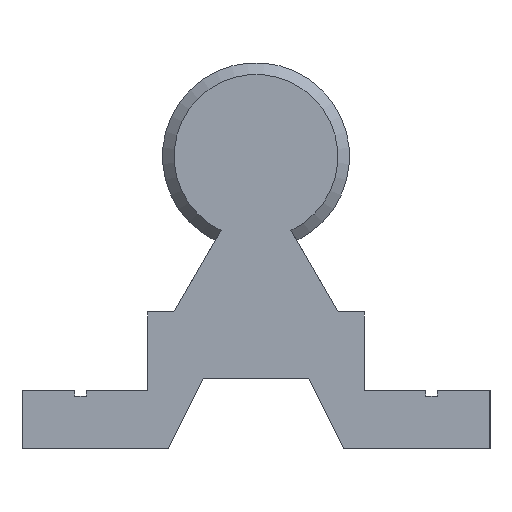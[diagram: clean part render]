
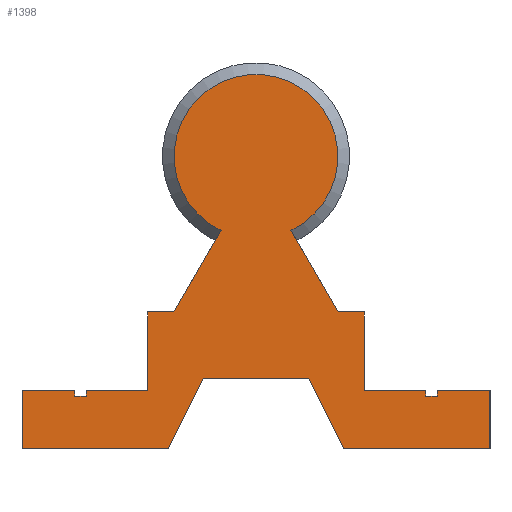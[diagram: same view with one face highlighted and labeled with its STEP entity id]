
A CAD part, left-side view. The second image highlights one B-rep face of the part: STEP entity #1398.
In plain terms, the highlighted planar face has unit normal (-1, 0, 0).
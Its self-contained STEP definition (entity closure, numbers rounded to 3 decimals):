
#32=LINE('',#2077,#142);
#33=LINE('',#2079,#143);
#34=LINE('',#2081,#144);
#35=LINE('',#2083,#145);
#36=LINE('',#2085,#146);
#37=LINE('',#2087,#147);
#38=LINE('',#2089,#148);
#39=LINE('',#2091,#149);
#40=LINE('',#2093,#150);
#41=LINE('',#2095,#151);
#42=LINE('',#2097,#152);
#43=LINE('',#2099,#153);
#44=LINE('',#2101,#154);
#45=LINE('',#2103,#155);
#46=LINE('',#2105,#156);
#47=LINE('',#2107,#157);
#48=LINE('',#2109,#158);
#49=LINE('',#2111,#159);
#50=LINE('',#2113,#160);
#51=LINE('',#2115,#161);
#52=LINE('',#2117,#162);
#53=LINE('',#2119,#163);
#54=LINE('',#2120,#164);
#142=VECTOR('',#1655,10.);
#143=VECTOR('',#1656,10.);
#144=VECTOR('',#1657,10.);
#145=VECTOR('',#1658,10.);
#146=VECTOR('',#1659,10.);
#147=VECTOR('',#1660,10.);
#148=VECTOR('',#1661,10.);
#149=VECTOR('',#1662,10.);
#150=VECTOR('',#1663,10.);
#151=VECTOR('',#1664,10.);
#152=VECTOR('',#1665,10.);
#153=VECTOR('',#1666,10.);
#154=VECTOR('',#1667,10.);
#155=VECTOR('',#1668,10.);
#156=VECTOR('',#1669,10.);
#157=VECTOR('',#1670,10.);
#158=VECTOR('',#1671,10.);
#159=VECTOR('',#1672,10.);
#160=VECTOR('',#1673,10.);
#161=VECTOR('',#1674,10.);
#162=VECTOR('',#1675,10.);
#163=VECTOR('',#1676,10.);
#164=VECTOR('',#1677,10.);
#252=PLANE('',#1496);
#302=FACE_OUTER_BOUND('',#378,.T.);
#378=EDGE_LOOP('',(#939,#940,#941,#942,#943,#944,#945,#946,#947,#948,#949,
#950,#951,#952,#953,#954,#955,#956,#957,#958,#959,#960,#961,#962));
#461=CIRCLE('',#1494,7.);
#574=VERTEX_POINT('',#2064);
#575=VERTEX_POINT('',#2068);
#577=VERTEX_POINT('',#2076);
#578=VERTEX_POINT('',#2078);
#579=VERTEX_POINT('',#2080);
#580=VERTEX_POINT('',#2082);
#581=VERTEX_POINT('',#2084);
#582=VERTEX_POINT('',#2086);
#583=VERTEX_POINT('',#2088);
#584=VERTEX_POINT('',#2090);
#585=VERTEX_POINT('',#2092);
#586=VERTEX_POINT('',#2094);
#587=VERTEX_POINT('',#2096);
#588=VERTEX_POINT('',#2098);
#589=VERTEX_POINT('',#2100);
#590=VERTEX_POINT('',#2102);
#591=VERTEX_POINT('',#2104);
#592=VERTEX_POINT('',#2106);
#593=VERTEX_POINT('',#2108);
#594=VERTEX_POINT('',#2110);
#595=VERTEX_POINT('',#2112);
#596=VERTEX_POINT('',#2114);
#597=VERTEX_POINT('',#2116);
#598=VERTEX_POINT('',#2118);
#714=EDGE_CURVE('',#574,#575,#461,.T.);
#717=EDGE_CURVE('',#575,#577,#32,.T.);
#718=EDGE_CURVE('',#578,#574,#33,.T.);
#719=EDGE_CURVE('',#579,#578,#34,.T.);
#720=EDGE_CURVE('',#580,#579,#35,.T.);
#721=EDGE_CURVE('',#581,#580,#36,.T.);
#722=EDGE_CURVE('',#582,#581,#37,.T.);
#723=EDGE_CURVE('',#583,#582,#38,.T.);
#724=EDGE_CURVE('',#584,#583,#39,.T.);
#725=EDGE_CURVE('',#585,#584,#40,.T.);
#726=EDGE_CURVE('',#586,#585,#41,.T.);
#727=EDGE_CURVE('',#587,#586,#42,.T.);
#728=EDGE_CURVE('',#588,#587,#43,.T.);
#729=EDGE_CURVE('',#589,#588,#44,.T.);
#730=EDGE_CURVE('',#590,#589,#45,.T.);
#731=EDGE_CURVE('',#591,#590,#46,.T.);
#732=EDGE_CURVE('',#592,#591,#47,.T.);
#733=EDGE_CURVE('',#593,#592,#48,.T.);
#734=EDGE_CURVE('',#594,#593,#49,.T.);
#735=EDGE_CURVE('',#595,#594,#50,.T.);
#736=EDGE_CURVE('',#596,#595,#51,.T.);
#737=EDGE_CURVE('',#597,#596,#52,.T.);
#738=EDGE_CURVE('',#598,#597,#53,.T.);
#739=EDGE_CURVE('',#577,#598,#54,.T.);
#939=ORIENTED_EDGE('',*,*,#717,.F.);
#940=ORIENTED_EDGE('',*,*,#714,.F.);
#941=ORIENTED_EDGE('',*,*,#718,.F.);
#942=ORIENTED_EDGE('',*,*,#719,.F.);
#943=ORIENTED_EDGE('',*,*,#720,.F.);
#944=ORIENTED_EDGE('',*,*,#721,.F.);
#945=ORIENTED_EDGE('',*,*,#722,.F.);
#946=ORIENTED_EDGE('',*,*,#723,.F.);
#947=ORIENTED_EDGE('',*,*,#724,.F.);
#948=ORIENTED_EDGE('',*,*,#725,.F.);
#949=ORIENTED_EDGE('',*,*,#726,.F.);
#950=ORIENTED_EDGE('',*,*,#727,.F.);
#951=ORIENTED_EDGE('',*,*,#728,.F.);
#952=ORIENTED_EDGE('',*,*,#729,.F.);
#953=ORIENTED_EDGE('',*,*,#730,.F.);
#954=ORIENTED_EDGE('',*,*,#731,.F.);
#955=ORIENTED_EDGE('',*,*,#732,.F.);
#956=ORIENTED_EDGE('',*,*,#733,.F.);
#957=ORIENTED_EDGE('',*,*,#734,.F.);
#958=ORIENTED_EDGE('',*,*,#735,.F.);
#959=ORIENTED_EDGE('',*,*,#736,.F.);
#960=ORIENTED_EDGE('',*,*,#737,.F.);
#961=ORIENTED_EDGE('',*,*,#738,.F.);
#962=ORIENTED_EDGE('',*,*,#739,.F.);
#1398=ADVANCED_FACE('',(#302),#252,.F.);
#1494=AXIS2_PLACEMENT_3D('',#2069,#1649,#1650);
#1496=AXIS2_PLACEMENT_3D('',#2075,#1653,#1654);
#1649=DIRECTION('center_axis',(1.,0.,0.));
#1650=DIRECTION('ref_axis',(0.,1.,0.));
#1653=DIRECTION('center_axis',(1.,0.,0.));
#1654=DIRECTION('ref_axis',(0.,0.,-1.));
#1655=DIRECTION('',(0.,-0.5,-0.866));
#1656=DIRECTION('',(0.,-0.5,0.866));
#1657=DIRECTION('',(0.,-1.,0.));
#1658=DIRECTION('',(0.,0.,1.));
#1659=DIRECTION('',(0.,-1.,0.));
#1660=DIRECTION('',(0.,0.,1.));
#1661=DIRECTION('',(0.,-1.,0.));
#1662=DIRECTION('',(0.,0.,-1.));
#1663=DIRECTION('',(0.,-1.,0.));
#1664=DIRECTION('',(0.,0.,1.));
#1665=DIRECTION('',(0.,1.,0.));
#1666=DIRECTION('',(0.,0.447,-0.894));
#1667=DIRECTION('',(0.,1.,0.));
#1668=DIRECTION('',(0.,0.447,0.894));
#1669=DIRECTION('',(0.,1.,0.));
#1670=DIRECTION('',(0.,0.,-1.));
#1671=DIRECTION('',(0.,-1.,0.));
#1672=DIRECTION('',(0.,0.,1.));
#1673=DIRECTION('',(0.,-1.,0.));
#1674=DIRECTION('',(0.,0.,-1.));
#1675=DIRECTION('',(0.,-1.,0.));
#1676=DIRECTION('',(0.,0.,-1.));
#1677=DIRECTION('',(0.,-1.,0.));
#2064=CARTESIAN_POINT('',(0.,2.986,18.669));
#2068=CARTESIAN_POINT('',(0.,-2.986,18.669));
#2069=CARTESIAN_POINT('Origin',(0.,0.,25.));
#2075=CARTESIAN_POINT('Origin',(0.,0.,25.));
#2076=CARTESIAN_POINT('',(0.,-7.009,11.7));
#2077=CARTESIAN_POINT('',(0.,-1.492,21.255));
#2078=CARTESIAN_POINT('',(0.,7.009,11.7));
#2079=CARTESIAN_POINT('',(0.,3.253,18.205));
#2080=CARTESIAN_POINT('',(0.,9.25,11.7));
#2081=CARTESIAN_POINT('',(0.,9.25,11.7));
#2082=CARTESIAN_POINT('',(0.,9.25,5.));
#2083=CARTESIAN_POINT('',(0.,9.25,5.));
#2084=CARTESIAN_POINT('',(0.,14.5,5.));
#2085=CARTESIAN_POINT('',(0.,14.5,5.));
#2086=CARTESIAN_POINT('',(0.,14.5,4.5));
#2087=CARTESIAN_POINT('',(0.,14.5,4.5));
#2088=CARTESIAN_POINT('',(0.,15.5,4.5));
#2089=CARTESIAN_POINT('',(0.,15.5,4.5));
#2090=CARTESIAN_POINT('',(0.,15.5,5.));
#2091=CARTESIAN_POINT('',(0.,15.5,5.));
#2092=CARTESIAN_POINT('',(0.,20.,5.));
#2093=CARTESIAN_POINT('',(0.,20.,5.));
#2094=CARTESIAN_POINT('',(0.,20.,0.));
#2095=CARTESIAN_POINT('',(0.,20.,0.));
#2096=CARTESIAN_POINT('',(0.,7.5,0.));
#2097=CARTESIAN_POINT('',(0.,7.5,0.));
#2098=CARTESIAN_POINT('',(0.,4.5,6.));
#2099=CARTESIAN_POINT('',(0.,4.5,6.));
#2100=CARTESIAN_POINT('',(0.,-4.5,6.));
#2101=CARTESIAN_POINT('',(0.,-4.5,6.));
#2102=CARTESIAN_POINT('',(0.,-7.5,0.));
#2103=CARTESIAN_POINT('',(0.,-7.5,0.));
#2104=CARTESIAN_POINT('',(0.,-20.,0.));
#2105=CARTESIAN_POINT('',(0.,-20.,0.));
#2106=CARTESIAN_POINT('',(0.,-20.,5.));
#2107=CARTESIAN_POINT('',(0.,-20.,5.));
#2108=CARTESIAN_POINT('',(0.,-15.5,5.));
#2109=CARTESIAN_POINT('',(0.,-15.5,5.));
#2110=CARTESIAN_POINT('',(0.,-15.5,4.5));
#2111=CARTESIAN_POINT('',(0.,-15.5,4.5));
#2112=CARTESIAN_POINT('',(0.,-14.5,4.5));
#2113=CARTESIAN_POINT('',(0.,-14.5,4.5));
#2114=CARTESIAN_POINT('',(0.,-14.5,5.));
#2115=CARTESIAN_POINT('',(0.,-14.5,5.));
#2116=CARTESIAN_POINT('',(0.,-9.25,5.));
#2117=CARTESIAN_POINT('',(0.,-9.25,5.));
#2118=CARTESIAN_POINT('',(0.,-9.25,11.7));
#2119=CARTESIAN_POINT('',(0.,-9.25,11.7));
#2120=CARTESIAN_POINT('',(0.,-7.009,11.7));
